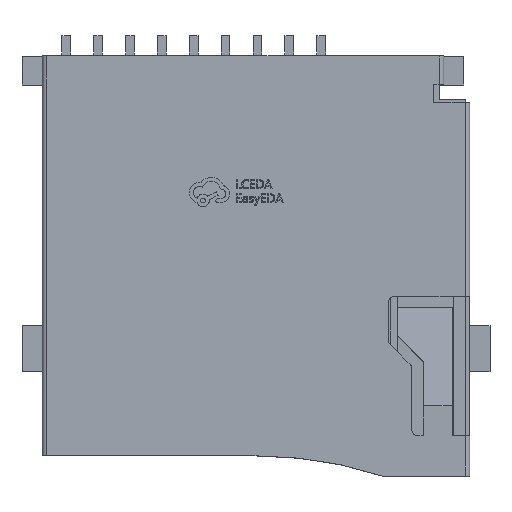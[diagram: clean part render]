
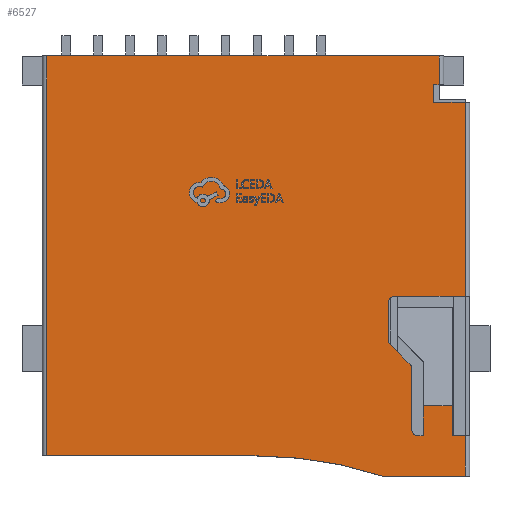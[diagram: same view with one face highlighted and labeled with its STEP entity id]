
A CAD part, top view. The second image highlights one B-rep face of the part: STEP entity #6527.
In plain terms, the highlighted planar face has unit normal (0, 0, 1).
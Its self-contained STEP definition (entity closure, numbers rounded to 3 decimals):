
#5945 = VERTEX_POINT('',#5946);
#5946 = CARTESIAN_POINT('',(6.723,-5.518,
    2.722));
#5952 = EDGE_CURVE('',#5945,#5953,#5955,.T.);
#5953 = VERTEX_POINT('',#5954);
#5954 = CARTESIAN_POINT('',(7.173,-5.518,
    2.722));
#5955 = LINE('',#5956,#5957);
#5956 = CARTESIAN_POINT('',(7.323,-5.518,
    2.722));
#5957 = VECTOR('',#5958,1.);
#5958 = DIRECTION('',(1.,0.,0.));
#6008 = EDGE_CURVE('',#6009,#5953,#6011,.T.);
#6009 = VERTEX_POINT('',#6010);
#6010 = CARTESIAN_POINT('',(7.173,-6.918,
    2.722));
#6011 = LINE('',#6012,#6013);
#6012 = CARTESIAN_POINT('',(7.173,22.467,2.722
    ));
#6013 = VECTOR('',#6014,1.);
#6014 = DIRECTION('',(0.,1.,0.));
#6497 = EDGE_CURVE('',#6498,#6009,#6500,.T.);
#6498 = VERTEX_POINT('',#6499);
#6499 = CARTESIAN_POINT('',(4.323,-6.918,
    2.722));
#6500 = LINE('',#6501,#6502);
#6501 = CARTESIAN_POINT('',(-7.277,-6.918,
    2.722));
#6502 = VECTOR('',#6503,1.);
#6503 = DIRECTION('',(1.,0.,0.));
#6527 = ADVANCED_FACE('',(#6528),#6704,.F.);
#6528 = FACE_BOUND('',#6529,.T.);
#6529 = EDGE_LOOP('',(#6530,#6531,#6532,#6540,#6548,#6556,#6564,#6573,
    #6581,#6590,#6598,#6607,#6615,#6624,#6632,#6640,#6648,#6656,#6664,
    #6672,#6680,#6688,#6696,#6703));
#6530 = ORIENTED_EDGE('',*,*,#6008,.T.);
#6531 = ORIENTED_EDGE('',*,*,#5952,.F.);
#6532 = ORIENTED_EDGE('',*,*,#6533,.T.);
#6533 = EDGE_CURVE('',#5945,#6534,#6536,.T.);
#6534 = VERTEX_POINT('',#6535);
#6535 = CARTESIAN_POINT('',(6.723,-4.484,
    2.722));
#6536 = LINE('',#6537,#6538);
#6537 = CARTESIAN_POINT('',(6.723,-5.518,
    2.722));
#6538 = VECTOR('',#6539,1.);
#6539 = DIRECTION('',(0.,1.,0.));
#6540 = ORIENTED_EDGE('',*,*,#6541,.T.);
#6541 = EDGE_CURVE('',#6534,#6542,#6544,.T.);
#6542 = VERTEX_POINT('',#6543);
#6543 = CARTESIAN_POINT('',(5.723,-4.484,
    2.722));
#6544 = LINE('',#6545,#6546);
#6545 = CARTESIAN_POINT('',(6.723,-4.484,
    2.722));
#6546 = VECTOR('',#6547,1.);
#6547 = DIRECTION('',(-1.,0.,0.));
#6548 = ORIENTED_EDGE('',*,*,#6549,.F.);
#6549 = EDGE_CURVE('',#6550,#6542,#6552,.T.);
#6550 = VERTEX_POINT('',#6551);
#6551 = CARTESIAN_POINT('',(5.723,-5.518,
    2.722));
#6552 = LINE('',#6553,#6554);
#6553 = CARTESIAN_POINT('',(5.723,-5.518,
    2.722));
#6554 = VECTOR('',#6555,1.);
#6555 = DIRECTION('',(0.,1.,0.));
#6556 = ORIENTED_EDGE('',*,*,#6557,.F.);
#6557 = EDGE_CURVE('',#6558,#6550,#6560,.T.);
#6558 = VERTEX_POINT('',#6559);
#6559 = CARTESIAN_POINT('',(5.523,-5.518,
    2.722));
#6560 = LINE('',#6561,#6562);
#6561 = CARTESIAN_POINT('',(7.323,-5.518,
    2.722));
#6562 = VECTOR('',#6563,1.);
#6563 = DIRECTION('',(1.,0.,0.));
#6564 = ORIENTED_EDGE('',*,*,#6565,.F.);
#6565 = EDGE_CURVE('',#6566,#6558,#6568,.T.);
#6566 = VERTEX_POINT('',#6567);
#6567 = CARTESIAN_POINT('',(5.323,-5.318,
    2.722));
#6568 = CIRCLE('',#6569,0.2);
#6569 = AXIS2_PLACEMENT_3D('',#6570,#6571,#6572);
#6570 = CARTESIAN_POINT('',(5.523,-5.318,
    2.722));
#6571 = DIRECTION('',(0.,0.,1.));
#6572 = DIRECTION('',(-1.,0.,0.));
#6573 = ORIENTED_EDGE('',*,*,#6574,.F.);
#6574 = EDGE_CURVE('',#6575,#6566,#6577,.T.);
#6575 = VERTEX_POINT('',#6576);
#6576 = CARTESIAN_POINT('',(5.323,-3.201,
    2.722));
#6577 = LINE('',#6578,#6579);
#6578 = CARTESIAN_POINT('',(5.323,-5.318,
    2.722));
#6579 = VECTOR('',#6580,1.);
#6580 = DIRECTION('',(0.,-1.,0.));
#6581 = ORIENTED_EDGE('',*,*,#6582,.F.);
#6582 = EDGE_CURVE('',#6583,#6575,#6585,.T.);
#6583 = VERTEX_POINT('',#6584);
#6584 = CARTESIAN_POINT('',(5.265,-3.059,
    2.722));
#6585 = CIRCLE('',#6586,0.2);
#6586 = AXIS2_PLACEMENT_3D('',#6587,#6588,#6589);
#6587 = CARTESIAN_POINT('',(5.123,-3.201,
    2.722));
#6588 = DIRECTION('',(0.,0.,-1.));
#6589 = DIRECTION('',(1.,0.,0.));
#6590 = ORIENTED_EDGE('',*,*,#6591,.F.);
#6591 = EDGE_CURVE('',#6592,#6583,#6594,.T.);
#6592 = VERTEX_POINT('',#6593);
#6593 = CARTESIAN_POINT('',(4.582,-2.377,
    2.722));
#6594 = LINE('',#6595,#6596);
#6595 = CARTESIAN_POINT('',(5.265,-3.059,
    2.722));
#6596 = VECTOR('',#6597,1.);
#6597 = DIRECTION('',(0.707,-0.707,0.));
#6598 = ORIENTED_EDGE('',*,*,#6599,.F.);
#6599 = EDGE_CURVE('',#6600,#6592,#6602,.T.);
#6600 = VERTEX_POINT('',#6601);
#6601 = CARTESIAN_POINT('',(4.523,-2.235,
    2.722));
#6602 = CIRCLE('',#6603,0.2);
#6603 = AXIS2_PLACEMENT_3D('',#6604,#6605,#6606);
#6604 = CARTESIAN_POINT('',(4.723,-2.235,
    2.722));
#6605 = DIRECTION('',(0.,0.,1.));
#6606 = DIRECTION('',(-1.,0.,0.));
#6607 = ORIENTED_EDGE('',*,*,#6608,.F.);
#6608 = EDGE_CURVE('',#6609,#6600,#6611,.T.);
#6609 = VERTEX_POINT('',#6610);
#6610 = CARTESIAN_POINT('',(4.523,-0.918,
    2.722));
#6611 = LINE('',#6612,#6613);
#6612 = CARTESIAN_POINT('',(4.523,-2.235,
    2.722));
#6613 = VECTOR('',#6614,1.);
#6614 = DIRECTION('',(0.,-1.,0.));
#6615 = ORIENTED_EDGE('',*,*,#6616,.F.);
#6616 = EDGE_CURVE('',#6617,#6609,#6619,.T.);
#6617 = VERTEX_POINT('',#6618);
#6618 = CARTESIAN_POINT('',(4.723,-0.718,
    2.722));
#6619 = CIRCLE('',#6620,0.2);
#6620 = AXIS2_PLACEMENT_3D('',#6621,#6622,#6623);
#6621 = CARTESIAN_POINT('',(4.723,-0.918,
    2.722));
#6622 = DIRECTION('',(0.,0.,1.));
#6623 = DIRECTION('',(-1.,0.,0.));
#6624 = ORIENTED_EDGE('',*,*,#6625,.F.);
#6625 = EDGE_CURVE('',#6626,#6617,#6628,.T.);
#6626 = VERTEX_POINT('',#6627);
#6627 = CARTESIAN_POINT('',(7.173,-0.718,
    2.722));
#6628 = LINE('',#6629,#6630);
#6629 = CARTESIAN_POINT('',(4.723,-0.718,
    2.722));
#6630 = VECTOR('',#6631,1.);
#6631 = DIRECTION('',(-1.,0.,0.));
#6632 = ORIENTED_EDGE('',*,*,#6633,.T.);
#6633 = EDGE_CURVE('',#6626,#6634,#6636,.T.);
#6634 = VERTEX_POINT('',#6635);
#6635 = CARTESIAN_POINT('',(7.173,5.982,2.722
    ));
#6636 = LINE('',#6637,#6638);
#6637 = CARTESIAN_POINT('',(7.173,22.467,2.722
    ));
#6638 = VECTOR('',#6639,1.);
#6639 = DIRECTION('',(0.,1.,0.));
#6640 = ORIENTED_EDGE('',*,*,#6641,.F.);
#6641 = EDGE_CURVE('',#6642,#6634,#6644,.T.);
#6642 = VERTEX_POINT('',#6643);
#6643 = CARTESIAN_POINT('',(6.073,5.982,2.722
    ));
#6644 = LINE('',#6645,#6646);
#6645 = CARTESIAN_POINT('',(6.073,5.982,2.722
    ));
#6646 = VECTOR('',#6647,1.);
#6647 = DIRECTION('',(1.,0.,0.));
#6648 = ORIENTED_EDGE('',*,*,#6649,.F.);
#6649 = EDGE_CURVE('',#6650,#6642,#6652,.T.);
#6650 = VERTEX_POINT('',#6651);
#6651 = CARTESIAN_POINT('',(6.073,6.582,2.722
    ));
#6652 = LINE('',#6653,#6654);
#6653 = CARTESIAN_POINT('',(6.073,7.582,2.722
    ));
#6654 = VECTOR('',#6655,1.);
#6655 = DIRECTION('',(0.,-1.,0.));
#6656 = ORIENTED_EDGE('',*,*,#6657,.T.);
#6657 = EDGE_CURVE('',#6650,#6658,#6660,.T.);
#6658 = VERTEX_POINT('',#6659);
#6659 = CARTESIAN_POINT('',(6.273,6.582,2.722
    ));
#6660 = LINE('',#6661,#6662);
#6661 = CARTESIAN_POINT('',(6.073,6.582,2.722
    ));
#6662 = VECTOR('',#6663,1.);
#6663 = DIRECTION('',(1.,0.,0.));
#6664 = ORIENTED_EDGE('',*,*,#6665,.T.);
#6665 = EDGE_CURVE('',#6658,#6666,#6668,.T.);
#6666 = VERTEX_POINT('',#6667);
#6667 = CARTESIAN_POINT('',(6.273,7.582,2.722
    ));
#6668 = LINE('',#6669,#6670);
#6669 = CARTESIAN_POINT('',(6.273,7.582,2.722
    ));
#6670 = VECTOR('',#6671,1.);
#6671 = DIRECTION('',(0.,1.,0.));
#6672 = ORIENTED_EDGE('',*,*,#6673,.T.);
#6673 = EDGE_CURVE('',#6666,#6674,#6676,.T.);
#6674 = VERTEX_POINT('',#6675);
#6675 = CARTESIAN_POINT('',(-7.277,7.582,
    2.722));
#6676 = LINE('',#6677,#6678);
#6677 = CARTESIAN_POINT('',(-7.277,7.582,
    2.722));
#6678 = VECTOR('',#6679,1.);
#6679 = DIRECTION('',(-1.,0.,0.));
#6680 = ORIENTED_EDGE('',*,*,#6681,.T.);
#6681 = EDGE_CURVE('',#6674,#6682,#6684,.T.);
#6682 = VERTEX_POINT('',#6683);
#6683 = CARTESIAN_POINT('',(-7.277,-6.218,
    2.722));
#6684 = LINE('',#6685,#6686);
#6685 = CARTESIAN_POINT('',(-7.277,22.467,
    2.722));
#6686 = VECTOR('',#6687,1.);
#6687 = DIRECTION('',(0.,-1.,0.));
#6688 = ORIENTED_EDGE('',*,*,#6689,.F.);
#6689 = EDGE_CURVE('',#6690,#6682,#6692,.T.);
#6690 = VERTEX_POINT('',#6691);
#6691 = CARTESIAN_POINT('',(-0.052,-6.218,
    2.722));
#6692 = LINE('',#6693,#6694);
#6693 = CARTESIAN_POINT('',(-7.427,-6.218,
    2.722));
#6694 = VECTOR('',#6695,1.);
#6695 = DIRECTION('',(-1.,0.,0.));
#6696 = ORIENTED_EDGE('',*,*,#6697,.F.);
#6697 = EDGE_CURVE('',#6498,#6690,#6698,.T.);
#6698 = CIRCLE('',#6699,14.022);
#6699 = AXIS2_PLACEMENT_3D('',#6700,#6701,#6702);
#6700 = CARTESIAN_POINT('',(-0.052,-20.24,
    2.722));
#6701 = DIRECTION('',(0.,0.,1.));
#6702 = DIRECTION('',(-1.,0.,0.));
#6703 = ORIENTED_EDGE('',*,*,#6497,.T.);
#6704 = PLANE('',#6705);
#6705 = AXIS2_PLACEMENT_3D('',#6706,#6707,#6708);
#6706 = CARTESIAN_POINT('',(-7.277,22.467,
    2.722));
#6707 = DIRECTION('',(0.,0.,-1.));
#6708 = DIRECTION('',(-1.,0.,0.));
